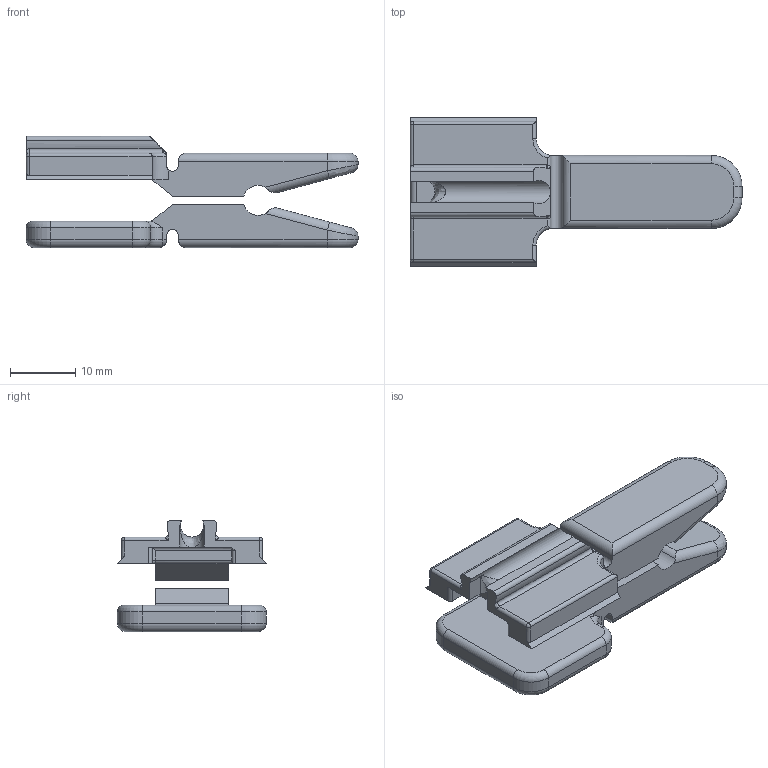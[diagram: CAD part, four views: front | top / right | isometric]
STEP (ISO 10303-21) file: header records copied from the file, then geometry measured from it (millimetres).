
FILE_DESCRIPTION(/* description */ (''),/* implementation_level */ '2;1');
FILE_NAME(/* name */ 'Sensor Clip.step',/* time_stamp */ '2026-02-11T07:25:27-06:00',/* author */ (''),/* organization */ (''),/* preprocessor_version */ 'ST-DEVELOPER v20.1',/* originating_system */ 'Autodesk Translation Framework v14.24.0.0',/* authorisation */ '');
FILE_SCHEMA (('AUTOMOTIVE_DESIGN { 1 0 10303 214 3 1 1 }'));
Length unit declared in the file: inch
Products named in the file (1): V3 Clip
Bounding box: 50.8 x 22.86 x 17.04 mm (x, y, z)
Volume: 7079.8 mm3; surface area: 4496.2 mm2
Topology: 2 solids, 2 shells, 154 faces, 382 edges, 232 vertices
Faces by surface type: cylinder 73, plane 50, torus 20, bspline 9, sphere 2
Entity records: 5082 total; most frequent: CARTESIAN_POINT 1388, DIRECTION 793, ORIENTED_EDGE 764, EDGE_CURVE 382, AXIS2_PLACEMENT_3D 299, VERTEX_POINT 232, LINE 195, VECTOR 195
